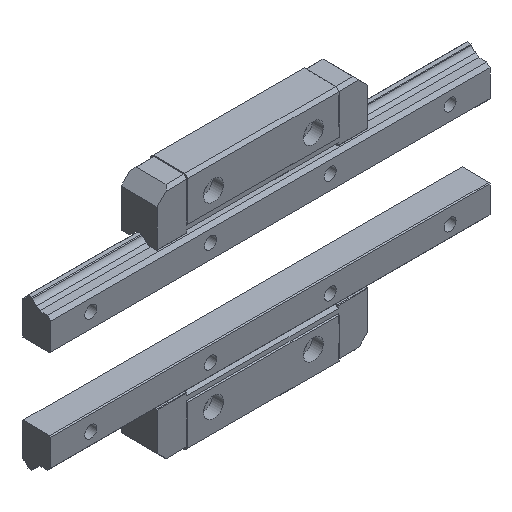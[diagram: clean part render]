
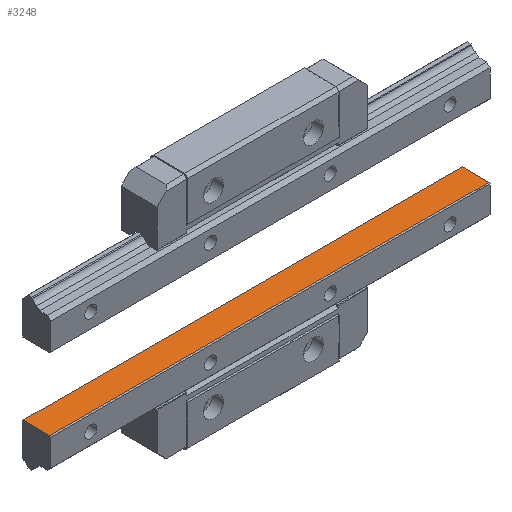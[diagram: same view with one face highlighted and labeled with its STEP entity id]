
A CAD part, isometric view. The second image highlights one B-rep face of the part: STEP entity #3248.
In plain terms, the highlighted planar face has unit normal (0, 0, 1) as drawn and (-1, 0, 0) by its records, which use the part's own axes.
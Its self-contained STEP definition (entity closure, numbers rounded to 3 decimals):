
#600=ORIENTED_EDGE('',*,*,#1254,.T.);
#601=ORIENTED_EDGE('',*,*,#1255,.F.);
#602=ORIENTED_EDGE('',*,*,#1256,.F.);
#603=ORIENTED_EDGE('',*,*,#1257,.T.);
#1254=EDGE_CURVE('',#1627,#1628,#1962,.T.);
#1255=EDGE_CURVE('',#1629,#1628,#1963,.T.);
#1256=EDGE_CURVE('',#1630,#1629,#1964,.T.);
#1257=EDGE_CURVE('',#1630,#1627,#1965,.T.);
#1627=VERTEX_POINT('',#5012);
#1628=VERTEX_POINT('',#5013);
#1629=VERTEX_POINT('',#5015);
#1630=VERTEX_POINT('',#5017);
#1962=LINE('',#5011,#2322);
#1963=LINE('',#5014,#2323);
#1964=LINE('',#5016,#2324);
#1965=LINE('',#5018,#2325);
#2322=VECTOR('',#4100,1000.);
#2323=VECTOR('',#4101,1000.);
#2324=VECTOR('',#4102,1000.);
#2325=VECTOR('',#4103,1000.);
#2630=EDGE_LOOP('',(#600,#601,#602,#603));
#2887=FACE_BOUND('',#2630,.T.);
#3086=PLANE('',#3520);
#3248=ADVANCED_FACE('',(#2887),#3086,.F.);
#3520=AXIS2_PLACEMENT_3D('',#5010,#4098,#4099);
#4098=DIRECTION('',(1.,0.,0.));
#4099=DIRECTION('',(0.,1.,0.));
#4100=DIRECTION('',(0.,-1.,0.));
#4101=DIRECTION('',(0.,0.,-1.));
#4102=DIRECTION('',(0.,-1.,0.));
#4103=DIRECTION('',(0.,0.,-1.));
#5010=CARTESIAN_POINT('',(0.,14.,200.));
#5011=CARTESIAN_POINT('',(0.,14.,-20.));
#5012=CARTESIAN_POINT('',(0.,14.,-20.));
#5013=CARTESIAN_POINT('',(0.,0.5,-20.));
#5014=CARTESIAN_POINT('',(0.,0.5,200.));
#5015=CARTESIAN_POINT('',(0.,0.5,200.));
#5016=CARTESIAN_POINT('',(0.,14.,200.));
#5017=CARTESIAN_POINT('',(0.,14.,200.));
#5018=CARTESIAN_POINT('',(0.,14.,200.));
